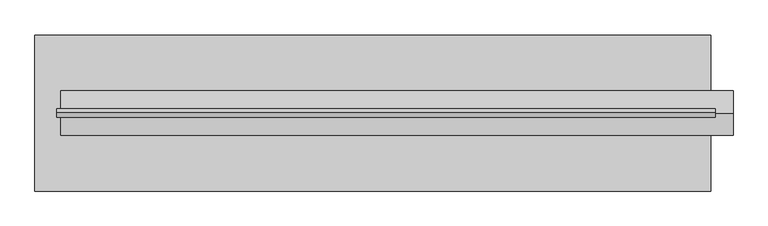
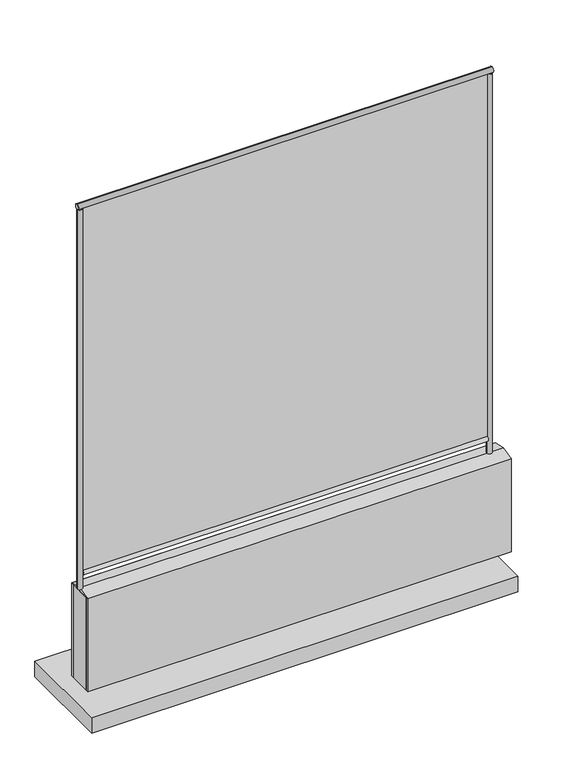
"""IFC4 building model written with IfcOpenShell, lengths in millimetres: plate geometry, FDE_FQ01_FechamentoParaQuadradeEsportes : FQ01_LateraisSapata."""

from ifc_helpers import new_model, si_unit, point, frame, frame_2d, origin, place, context, project, spatial, polyline, circle_curve, trimmed, segment, composite_curve, outline, extrude, source, transform, mapped, element, save


def plate_c8864c2c(model_context):
    return source(origin(), model_context, "Body", "SweptSolid", [
        extrude(outline(composite_curve([segment(trimmed(circle_curve(frame_2d((-1250.0000002, 0.0)), 16.0), [point((-1266.0000002, 0.0))], [point((-1234.0000002, 0.0))], False, "CARTESIAN"), True, "CONTINUOUS"), segment(trimmed(circle_curve(frame_2d((-1250.0000002, 0.0)), 16.0), [point((-1234.0000002, 0.0))], [point((-1266.0000002, 0.0))], False, "CARTESIAN"), True, "CONTINUOUS")], self_intersect=False)), frame((0.0, 0.0, 920.0), z_axis=(0.0, 0.0, 1.0), x_axis=(1.0, 0.0, 0.0)), (0.0, 0.0, 1.0), 2448.0),
        extrude(outline(composite_curve([segment(trimmed(circle_curve(frame_2d((1250.0000002, 0.0)), 16.0), [point((1234.0000002, 0.0))], [point((1266.0000002, 0.0))], False, "CARTESIAN"), True, "CONTINUOUS"), segment(trimmed(circle_curve(frame_2d((1250.0000002, 0.0)), 16.0), [point((1266.0000002, 0.0))], [point((1234.0000002, 0.0))], False, "CARTESIAN"), True, "CONTINUOUS")], self_intersect=False)), frame((0.0, 0.0, 920.0), z_axis=(0.0, 0.0, 1.0), x_axis=(1.0, 0.0, 0.0)), (0.0, 0.0, 1.0), 2448.0),
        extrude(outline(polyline([(1250.0000002, 300.0), (1250.0000002, -300.0), (-1350.0000002, -300.0), (-1350.0000002, 300.0), (1250.0000002, 300.0)])), frame((0.0, 0.0, 200.0), z_axis=(0.0, 0.0, 1.0), x_axis=(1.0, 0.0, 0.0)), (0.0, 0.0, 1.0), 100.0),
        extrude(outline(polyline([(85.0, 900.0), (-85.0, 900.0), (0.0, 920.0), (85.0, 900.0)])), frame((-1250.0000002, 0.0, 0.0), z_axis=(1.0, 0.0, 0.0), x_axis=(0.0, 1.0, 0.0)), (0.0, 0.0, 1.0), 2585.0000003),
        extrude(outline(polyline([(-1250.0000002, -85.0), (-1250.0000002, -70.0), (1335.0000002, -70.0), (1335.0000002, -85.0), (-1250.0000002, -85.0)])), frame((0.0, 0.0, 300.0), z_axis=(0.0, 0.0, 1.0), x_axis=(1.0, 0.0, 0.0)), (0.0, 0.0, 1.0), 600.0),
        extrude(outline(polyline([(-1250.0000002, 70.0), (-1250.0000002, 85.0), (1335.0000002, 85.0), (1335.0000002, 70.0), (-1250.0000002, 70.0)])), frame((0.0, 0.0, 300.0), z_axis=(0.0, 0.0, 1.0), x_axis=(1.0, 0.0, 0.0)), (0.0, 0.0, 1.0), 600.0),
        extrude(outline(polyline([(1335.0000002, 70.0), (1335.0000002, -70.0), (-1250.0000002, -70.0), (-1250.0000002, 70.0), (1335.0000002, 70.0)])), frame((0.0, 0.0, 300.0), z_axis=(0.0, 0.0, 1.0), x_axis=(1.0, 0.0, 0.0)), (0.0, 0.0, 1.0), 600.0),
        extrude(outline(polyline([(1234.0000002, -5.0), (-1234.0000002, -5.0), (-1234.0000002, 5.0), (1234.0000002, 5.0), (1234.0000002, -5.0)])), frame((0.0, 0.0, 1032.0), z_axis=(0.0, 0.0, 1.0), x_axis=(1.0, 0.0, 0.0)), (0.0, 0.0, 1.0), 2336.0),
        extrude(outline(composite_curve([segment(trimmed(circle_curve(frame_2d((0.0, 1016.0)), 16.0), [point((0.0, 1032.0))], [point((0.0, 1000.0))], False, "CARTESIAN"), True, "CONTINUOUS"), segment(trimmed(circle_curve(frame_2d((0.0, 1016.0)), 16.0), [point((0.0, 1000.0))], [point((0.0, 1032.0))], False, "CARTESIAN"), True, "CONTINUOUS")], self_intersect=False)), frame((-1234.0000002, 0.0, 0.0), z_axis=(1.0, 0.0, 0.0), x_axis=(0.0, 1.0, 0.0)), (0.0, 0.0, 1.0), 2468.0000003),
        extrude(outline(composite_curve([segment(trimmed(circle_curve(frame_2d((0.0, 3384.0)), 16.0), [point((0.0, 3368.0))], [point((0.0, 3400.0))], False, "CARTESIAN"), True, "CONTINUOUS"), segment(trimmed(circle_curve(frame_2d((0.0, 3384.0)), 16.0), [point((0.0, 3400.0))], [point((0.0, 3368.0))], False, "CARTESIAN"), True, "CONTINUOUS")], self_intersect=False)), frame((-1266.0000002, 0.0, 0.0), z_axis=(1.0, 0.0, 0.0), x_axis=(0.0, 1.0, 0.0)), (0.0, 0.0, 1.0), 2532.0000003),
    ])


if __name__ == "__main__":
    model = new_model("IFC4")
    model_context = context("Model", 3, world=origin())
    ifc_project = project(units=[si_unit("LENGTHUNIT", "METRE", prefix="MILLI")], contexts=[model_context])
    site = spatial("IfcSite", under=ifc_project)
    building = spatial("IfcBuilding", under=site)
    placement = place(None, origin())
    plate_shape = plate_c8864c2c(model_context)
    element("IfcPlate", 1, ObjectType="FDE_FQ01_FechamentoParaQuadradeEsportes : FQ01_LateraisSapata", at=placement, inside=building, context=model_context, shape_type="MappedRepresentation", body=[
        mapped(plate_shape, transform((0.0, 0.0, 0.0), x_axis=(1.0, 0.0, 0.0), y_axis=(0.0, 1.0, 0.0), z_axis=(0.0, 0.0, 1.0))),
    ])
    save(model, "model.ifc")
